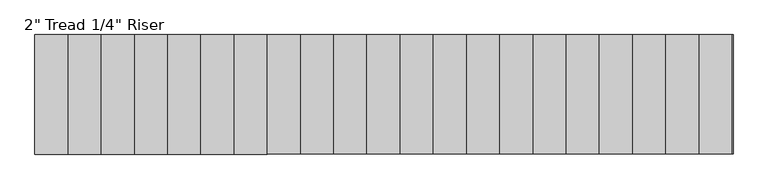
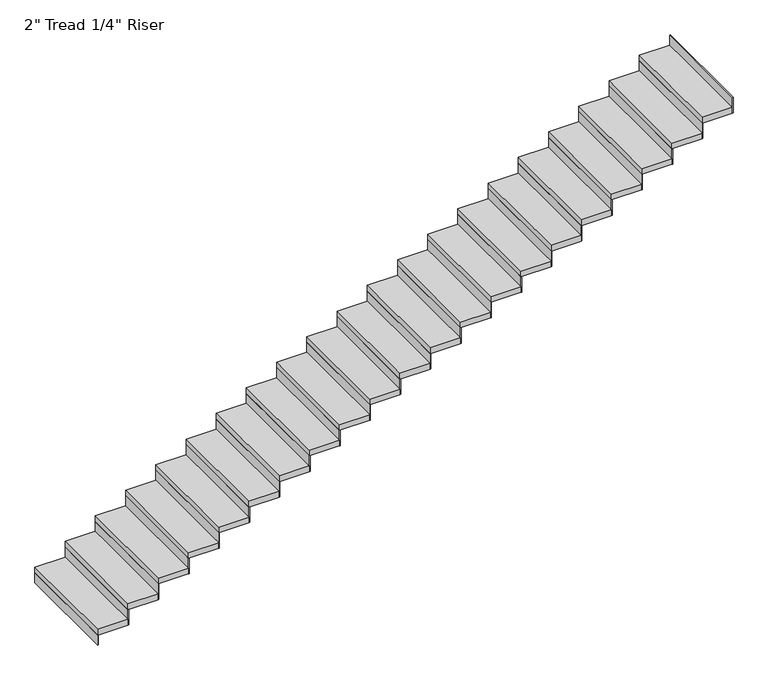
"""IFC4 building model written with IfcOpenShell, lengths in millimetres: stair flight geometry."""

from ifc_helpers import new_model, si_unit, frame, origin, origin_with_axes, place, context, project, spatial, polyline, outline, extrude, source, transform, mapped, element, save


def stair_flight_8ca85bbc(model_context):
    return source(origin(), model_context, "Body", "SweptSolid", [
        extrude(outline(polyline([(60465.3810647, 48781.8664429), (60459.0310647, 48781.8664429), (60459.0310647, 49696.2664429), (60465.3810647, 49696.2664429), (60465.3810647, 48781.8664429)])), origin_with_axes(), (0.0, 0.0, 1.0), 87.7454545),
        extrude(outline(polyline([(60713.0310647, 49696.2664429), (60713.0310647, 48781.8664429), (60459.0310647, 48781.8664429), (60459.0310647, 49696.2664429), (60713.0310647, 49696.2664429)])), frame((0.0, 0.0, 87.7454545), z_axis=(0.0, 0.0, 1.0), x_axis=(1.0, 0.0, 0.0)), (0.0, 0.0, 1.0), 50.8),
        extrude(outline(polyline([(60719.3810647, 48781.8664429), (60713.0310647, 48781.8664429), (60713.0310647, 49696.2664429), (60719.3810647, 49696.2664429), (60719.3810647, 48781.8664429)])), frame((0.0, 0.0, 87.7454545), z_axis=(0.0, 0.0, 1.0), x_axis=(1.0, 0.0, 0.0)), (0.0, 0.0, 1.0), 138.5454545),
        extrude(outline(polyline([(60967.0310647, 49696.2664429), (60967.0310647, 48781.8664429), (60713.0310647, 48781.8664429), (60713.0310647, 49696.2664429), (60967.0310647, 49696.2664429)])), frame((0.0, 0.0, 226.2909091), z_axis=(0.0, 0.0, 1.0), x_axis=(1.0, 0.0, 0.0)), (0.0, 0.0, 1.0), 50.8),
        extrude(outline(polyline([(60973.3810647, 48781.8664429), (60967.0310647, 48781.8664429), (60967.0310647, 49696.2664429), (60973.3810647, 49696.2664429), (60973.3810647, 48781.8664429)])), frame((0.0, 0.0, 226.2909091), z_axis=(0.0, 0.0, 1.0), x_axis=(1.0, 0.0, 0.0)), (0.0, 0.0, 1.0), 138.5454545),
        extrude(outline(polyline([(61221.0310647, 49696.2664429), (61221.0310647, 48781.8664429), (60967.0310647, 48781.8664429), (60967.0310647, 49696.2664429), (61221.0310647, 49696.2664429)])), frame((0.0, 0.0, 364.8363636), z_axis=(0.0, 0.0, 1.0), x_axis=(1.0, 0.0, 0.0)), (0.0, 0.0, 1.0), 50.8),
        extrude(outline(polyline([(61227.3810647, 48781.8664429), (61221.0310647, 48781.8664429), (61221.0310647, 49696.2664429), (61227.3810647, 49696.2664429), (61227.3810647, 48781.8664429)])), frame((0.0, 0.0, 364.8363636), z_axis=(0.0, 0.0, 1.0), x_axis=(1.0, 0.0, 0.0)), (0.0, 0.0, 1.0), 138.5454545),
        extrude(outline(polyline([(61475.0310647, 49696.2664429), (61475.0310647, 48781.8664429), (61221.0310647, 48781.8664429), (61221.0310647, 49696.2664429), (61475.0310647, 49696.2664429)])), frame((0.0, 0.0, 503.3818182), z_axis=(0.0, 0.0, 1.0), x_axis=(1.0, 0.0, 0.0)), (0.0, 0.0, 1.0), 50.8),
        extrude(outline(polyline([(61481.3810647, 48781.8664429), (61475.0310647, 48781.8664429), (61475.0310647, 49696.2664429), (61481.3810647, 49696.2664429), (61481.3810647, 48781.8664429)])), frame((0.0, 0.0, 503.3818182), z_axis=(0.0, 0.0, 1.0), x_axis=(1.0, 0.0, 0.0)), (0.0, 0.0, 1.0), 138.5454545),
        extrude(outline(polyline([(61729.0310647, 49696.2664429), (61729.0310647, 48781.8664429), (61475.0310647, 48781.8664429), (61475.0310647, 49696.2664429), (61729.0310647, 49696.2664429)])), frame((0.0, 0.0, 641.9272727), z_axis=(0.0, 0.0, 1.0), x_axis=(1.0, 0.0, 0.0)), (0.0, 0.0, 1.0), 50.8),
        extrude(outline(polyline([(61735.3810647, 48781.8664429), (61729.0310647, 48781.8664429), (61729.0310647, 49696.2664429), (61735.3810647, 49696.2664429), (61735.3810647, 48781.8664429)])), frame((0.0, 0.0, 641.9272727), z_axis=(0.0, 0.0, 1.0), x_axis=(1.0, 0.0, 0.0)), (0.0, 0.0, 1.0), 138.5454545),
        extrude(outline(polyline([(61983.0310647, 49696.2664429), (61983.0310647, 48781.8664429), (61729.0310647, 48781.8664429), (61729.0310647, 49696.2664429), (61983.0310647, 49696.2664429)])), frame((0.0, 0.0, 780.4727273), z_axis=(0.0, 0.0, 1.0), x_axis=(1.0, 0.0, 0.0)), (0.0, 0.0, 1.0), 50.8),
        extrude(outline(polyline([(61989.3810647, 48781.8664429), (61983.0310647, 48781.8664429), (61983.0310647, 49696.2664429), (61989.3810647, 49696.2664429), (61989.3810647, 48781.8664429)])), frame((0.0, 0.0, 780.4727273), z_axis=(0.0, 0.0, 1.0), x_axis=(1.0, 0.0, 0.0)), (0.0, 0.0, 1.0), 138.5454545),
        extrude(outline(polyline([(62237.0310647, 49696.2664429), (62237.0310647, 48781.8664429), (61983.0310647, 48781.8664429), (61983.0310647, 49696.2664429), (62237.0310647, 49696.2664429)])), frame((0.0, 0.0, 919.0181818), z_axis=(0.0, 0.0, 1.0), x_axis=(1.0, 0.0, 0.0)), (0.0, 0.0, 1.0), 50.8),
        extrude(outline(polyline([(62243.3810647, 48781.8664429), (62237.0310647, 48781.8664429), (62237.0310647, 49696.2664429), (62243.3810647, 49696.2664429), (62243.3810647, 48781.8664429)])), frame((0.0, 0.0, 919.0181818), z_axis=(0.0, 0.0, 1.0), x_axis=(1.0, 0.0, 0.0)), (0.0, 0.0, 1.0), 138.5454545),
        extrude(outline(polyline([(62491.0310647, 49696.2664429), (62491.0310647, 48781.8664429), (62237.0310647, 48781.8664429), (62237.0310647, 49696.2664429), (62491.0310647, 49696.2664429)])), frame((0.0, 0.0, 1057.5636364), z_axis=(0.0, 0.0, 1.0), x_axis=(1.0, 0.0, 0.0)), (0.0, 0.0, 1.0), 50.8),
        extrude(outline(polyline([(62497.3810647, 48781.8664429), (62491.0310647, 48781.8664429), (62491.0310647, 49696.2664429), (62497.3810647, 49696.2664429), (62497.3810647, 48781.8664429)])), frame((0.0, 0.0, 1057.5636364), z_axis=(0.0, 0.0, 1.0), x_axis=(1.0, 0.0, 0.0)), (0.0, 0.0, 1.0), 138.5454545),
        extrude(outline(polyline([(62745.0310647, 49696.2664429), (62745.0310647, 48781.8664429), (62491.0310647, 48781.8664429), (62491.0310647, 49696.2664429), (62745.0310647, 49696.2664429)])), frame((0.0, 0.0, 1196.1090909), z_axis=(0.0, 0.0, 1.0), x_axis=(1.0, 0.0, 0.0)), (0.0, 0.0, 1.0), 50.8),
        extrude(outline(polyline([(62751.3810647, 48781.8664429), (62745.0310647, 48781.8664429), (62745.0310647, 49696.2664429), (62751.3810647, 49696.2664429), (62751.3810647, 48781.8664429)])), frame((0.0, 0.0, 1196.1090909), z_axis=(0.0, 0.0, 1.0), x_axis=(1.0, 0.0, 0.0)), (0.0, 0.0, 1.0), 138.5454545),
        extrude(outline(polyline([(62999.0310647, 49696.2664429), (62999.0310647, 48781.8664429), (62745.0310647, 48781.8664429), (62745.0310647, 49696.2664429), (62999.0310647, 49696.2664429)])), frame((0.0, 0.0, 1334.6545455), z_axis=(0.0, 0.0, 1.0), x_axis=(1.0, 0.0, 0.0)), (0.0, 0.0, 1.0), 50.8),
        extrude(outline(polyline([(63005.3810647, 48781.8664429), (62999.0310647, 48781.8664429), (62999.0310647, 49696.2664429), (63005.3810647, 49696.2664429), (63005.3810647, 48781.8664429)])), frame((0.0, 0.0, 1334.6545455), z_axis=(0.0, 0.0, 1.0), x_axis=(1.0, 0.0, 0.0)), (0.0, 0.0, 1.0), 138.5454545),
        extrude(outline(polyline([(63253.0310647, 49696.2664429), (63253.0310647, 48781.8664429), (62999.0310647, 48781.8664429), (62999.0310647, 49696.2664429), (63253.0310647, 49696.2664429)])), frame((0.0, 0.0, 1473.2), z_axis=(0.0, 0.0, 1.0), x_axis=(1.0, 0.0, 0.0)), (0.0, 0.0, 1.0), 50.8),
        extrude(outline(polyline([(63259.3810647, 48781.8664429), (63253.0310647, 48781.8664429), (63253.0310647, 49696.2664429), (63259.3810647, 49696.2664429), (63259.3810647, 48781.8664429)])), frame((0.0, 0.0, 1473.2), z_axis=(0.0, 0.0, 1.0), x_axis=(1.0, 0.0, 0.0)), (0.0, 0.0, 1.0), 138.5454545),
        extrude(outline(polyline([(63507.0310647, 49696.2664429), (63507.0310647, 48781.8664429), (63253.0310647, 48781.8664429), (63253.0310647, 49696.2664429), (63507.0310647, 49696.2664429)])), frame((0.0, 0.0, 1611.7454545), z_axis=(0.0, 0.0, 1.0), x_axis=(1.0, 0.0, 0.0)), (0.0, 0.0, 1.0), 50.8),
        extrude(outline(polyline([(63513.3810647, 48781.8664429), (63507.0310647, 48781.8664429), (63507.0310647, 49696.2664429), (63513.3810647, 49696.2664429), (63513.3810647, 48781.8664429)])), frame((0.0, 0.0, 1611.7454545), z_axis=(0.0, 0.0, 1.0), x_axis=(1.0, 0.0, 0.0)), (0.0, 0.0, 1.0), 138.5454545),
        extrude(outline(polyline([(63761.0310647, 49696.2664429), (63761.0310647, 48781.8664429), (63507.0310647, 48781.8664429), (63507.0310647, 49696.2664429), (63761.0310647, 49696.2664429)])), frame((0.0, 0.0, 1750.2909091), z_axis=(0.0, 0.0, 1.0), x_axis=(1.0, 0.0, 0.0)), (0.0, 0.0, 1.0), 50.8),
        extrude(outline(polyline([(63767.3810647, 48781.8664429), (63761.0310647, 48781.8664429), (63761.0310647, 49696.2664429), (63767.3810647, 49696.2664429), (63767.3810647, 48781.8664429)])), frame((0.0, 0.0, 1750.2909091), z_axis=(0.0, 0.0, 1.0), x_axis=(1.0, 0.0, 0.0)), (0.0, 0.0, 1.0), 138.5454545),
        extrude(outline(polyline([(64015.0310647, 49696.2664429), (64015.0310647, 48781.8664429), (63761.0310647, 48781.8664429), (63761.0310647, 49696.2664429), (64015.0310647, 49696.2664429)])), frame((0.0, 0.0, 1888.8363636), z_axis=(0.0, 0.0, 1.0), x_axis=(1.0, 0.0, 0.0)), (0.0, 0.0, 1.0), 50.8),
        extrude(outline(polyline([(64021.3810647, 48781.8664429), (64015.0310647, 48781.8664429), (64015.0310647, 49696.2664429), (64021.3810647, 49696.2664429), (64021.3810647, 48781.8664429)])), frame((0.0, 0.0, 1888.8363636), z_axis=(0.0, 0.0, 1.0), x_axis=(1.0, 0.0, 0.0)), (0.0, 0.0, 1.0), 138.5454545),
        extrude(outline(polyline([(64269.0310647, 49696.2664429), (64269.0310647, 48781.8664429), (64015.0310647, 48781.8664429), (64015.0310647, 49696.2664429), (64269.0310647, 49696.2664429)])), frame((0.0, 0.0, 2027.3818182), z_axis=(0.0, 0.0, 1.0), x_axis=(1.0, 0.0, 0.0)), (0.0, 0.0, 1.0), 50.8),
        extrude(outline(polyline([(64275.3810647, 48781.8664429), (64269.0310647, 48781.8664429), (64269.0310647, 49696.2664429), (64275.3810647, 49696.2664429), (64275.3810647, 48781.8664429)])), frame((0.0, 0.0, 2027.3818182), z_axis=(0.0, 0.0, 1.0), x_axis=(1.0, 0.0, 0.0)), (0.0, 0.0, 1.0), 138.5454545),
        extrude(outline(polyline([(64523.0310647, 49696.2664429), (64523.0310647, 48781.8664429), (64269.0310647, 48781.8664429), (64269.0310647, 49696.2664429), (64523.0310647, 49696.2664429)])), frame((0.0, 0.0, 2165.9272727), z_axis=(0.0, 0.0, 1.0), x_axis=(1.0, 0.0, 0.0)), (0.0, 0.0, 1.0), 50.8),
        extrude(outline(polyline([(64529.3810647, 48781.8664429), (64523.0310647, 48781.8664429), (64523.0310647, 49696.2664429), (64529.3810647, 49696.2664429), (64529.3810647, 48781.8664429)])), frame((0.0, 0.0, 2165.9272727), z_axis=(0.0, 0.0, 1.0), x_axis=(1.0, 0.0, 0.0)), (0.0, 0.0, 1.0), 138.5454545),
        extrude(outline(polyline([(64777.0310647, 49696.2664429), (64777.0310647, 48781.8664429), (64523.0310647, 48781.8664429), (64523.0310647, 49696.2664429), (64777.0310647, 49696.2664429)])), frame((0.0, 0.0, 2304.4727273), z_axis=(0.0, 0.0, 1.0), x_axis=(1.0, 0.0, 0.0)), (0.0, 0.0, 1.0), 50.8),
        extrude(outline(polyline([(64783.3810647, 48781.8664429), (64777.0310647, 48781.8664429), (64777.0310647, 49696.2664429), (64783.3810647, 49696.2664429), (64783.3810647, 48781.8664429)])), frame((0.0, 0.0, 2304.4727273), z_axis=(0.0, 0.0, 1.0), x_axis=(1.0, 0.0, 0.0)), (0.0, 0.0, 1.0), 138.5454545),
        extrude(outline(polyline([(65031.0310647, 49696.2664429), (65031.0310647, 48781.8664429), (64777.0310647, 48781.8664429), (64777.0310647, 49696.2664429), (65031.0310647, 49696.2664429)])), frame((0.0, 0.0, 2443.0181818), z_axis=(0.0, 0.0, 1.0), x_axis=(1.0, 0.0, 0.0)), (0.0, 0.0, 1.0), 50.8),
        extrude(outline(polyline([(65037.3810647, 48781.8664429), (65031.0310647, 48781.8664429), (65031.0310647, 49696.2664429), (65037.3810647, 49696.2664429), (65037.3810647, 48781.8664429)])), frame((0.0, 0.0, 2443.0181818), z_axis=(0.0, 0.0, 1.0), x_axis=(1.0, 0.0, 0.0)), (0.0, 0.0, 1.0), 138.5454545),
        extrude(outline(polyline([(65285.0310647, 49696.2664429), (65285.0310647, 48781.8664429), (65031.0310647, 48781.8664429), (65031.0310647, 49696.2664429), (65285.0310647, 49696.2664429)])), frame((0.0, 0.0, 2581.5636364), z_axis=(0.0, 0.0, 1.0), x_axis=(1.0, 0.0, 0.0)), (0.0, 0.0, 1.0), 50.8),
        extrude(outline(polyline([(65291.3810647, 48781.8664429), (65285.0310647, 48781.8664429), (65285.0310647, 49696.2664429), (65291.3810647, 49696.2664429), (65291.3810647, 48781.8664429)])), frame((0.0, 0.0, 2581.5636364), z_axis=(0.0, 0.0, 1.0), x_axis=(1.0, 0.0, 0.0)), (0.0, 0.0, 1.0), 138.5454545),
        extrude(outline(polyline([(65539.0310647, 49696.2664429), (65539.0310647, 48781.8664429), (65285.0310647, 48781.8664429), (65285.0310647, 49696.2664429), (65539.0310647, 49696.2664429)])), frame((0.0, 0.0, 2720.1090909), z_axis=(0.0, 0.0, 1.0), x_axis=(1.0, 0.0, 0.0)), (0.0, 0.0, 1.0), 50.8),
        extrude(outline(polyline([(65545.3810647, 48781.8664429), (65539.0310647, 48781.8664429), (65539.0310647, 49696.2664429), (65545.3810647, 49696.2664429), (65545.3810647, 48781.8664429)])), frame((0.0, 0.0, 2720.1090909), z_axis=(0.0, 0.0, 1.0), x_axis=(1.0, 0.0, 0.0)), (0.0, 0.0, 1.0), 138.5454545),
        extrude(outline(polyline([(65799.3810647, 48781.8664429), (65793.0310647, 48781.8664429), (65793.0310647, 49696.2664429), (65799.3810647, 49696.2664429), (65799.3810647, 48781.8664429)])), frame((0.0, 0.0, 2858.6545455), z_axis=(0.0, 0.0, 1.0), x_axis=(1.0, 0.0, 0.0)), (0.0, 0.0, 1.0), 138.5454545),
        extrude(outline(polyline([(65793.0310647, 49696.2664429), (65793.0310647, 48781.8664429), (65539.0310647, 48781.8664429), (65539.0310647, 49696.2664429), (65793.0310647, 49696.2664429)])), frame((0.0, 0.0, 2858.6545455), z_axis=(0.0, 0.0, 1.0), x_axis=(1.0, 0.0, 0.0)), (0.0, 0.0, 1.0), 50.8),
    ])


if __name__ == "__main__":
    model = new_model("IFC4")
    model_context = context("Model", 3, world=origin())
    ifc_project = project(units=[si_unit("LENGTHUNIT", "METRE", prefix="MILLI")], contexts=[model_context])
    site = spatial("IfcSite", under=ifc_project)
    building = spatial("IfcBuilding", under=site)
    placement = place(None, origin())
    stair_flight_shape = stair_flight_8ca85bbc(model_context)
    element("IfcStairFlight", 1, ObjectType="2\" Tread 1/4\" Riser", at=placement, inside=building, context=model_context, shape_type="MappedRepresentation", body=[
        mapped(stair_flight_shape, transform((0.0, 0.0, 0.0), x_axis=(1.0, 0.0, 0.0), y_axis=(0.0, 1.0, 0.0), z_axis=(0.0, 0.0, 1.0))),
    ])
    save(model, "model.ifc")
